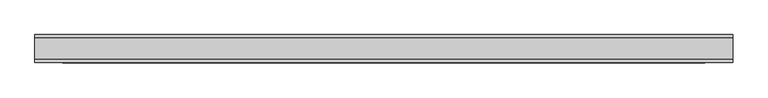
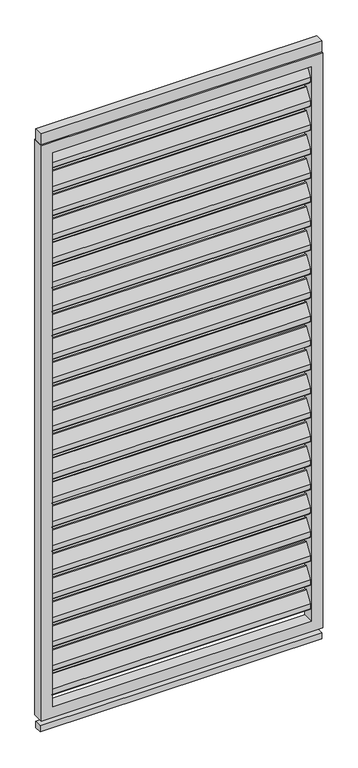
"""IFC4 building model written with IfcOpenShell, lengths in millimetres: proxy geometry, Renson_Camargue_Loggia_Paro_Aluminium : Renson_Camargue_Loggia_Paro_Aluminium."""

from ifc_helpers import new_model, si_unit, point, frame, frame_2d, origin, origin_with_axes, place, context, project, spatial, polyline, circle_curve, trimmed, segment, composite_curve, outline, extrude, source, transform, mapped, element, save


def generic_models_bb8b41d5(model_context):
    return source(origin(), model_context, "Body", "SweptSolid", [
        extrude(outline(composite_curve([segment(trimmed(circle_curve(frame_2d((12.6675921, 2162.6587719)), 3.0), [point((10.1515804, 2164.292689))], [point((15.6675921, 2162.6587719))], False, "CARTESIAN"), True, "CONTINUOUS"), segment(polyline([(15.6675921, 2162.6587719), (15.6675921, 2144.2979873)]), True, "CONTINUOUS"), segment(trimmed(circle_curve(frame_2d((12.6675921, 2144.2979873)), 3.0), [point((15.6675921, 2144.2979873))], [point((15.1836038, 2142.6640702))], False, "CARTESIAN"), True, "CONTINUOUS"), segment(polyline([(15.1836038, 2142.6640702), (-8.8163962, 2105.707311)]), True, "CONTINUOUS"), segment(trimmed(circle_curve(frame_2d((-11.3324079, 2107.3412281)), 3.0), [point((-8.8163962, 2105.707311))], [point((-14.3324079, 2107.3412281))], False, "CARTESIAN"), True, "CONTINUOUS"), segment(polyline([(-14.3324079, 2107.3412281), (-14.3324079, 2126.5906532), (10.1515804, 2164.292689)]), True, "CONTINUOUS")], self_intersect=False)), frame((-460.0, 0.0, 0.0), z_axis=(1.0, 0.0, 0.0), x_axis=(0.0, 1.0, 0.0)), (0.0, 0.0, 1.0), 920.0),
        extrude(outline(composite_curve([segment(trimmed(circle_curve(frame_2d((12.6675921, 2072.6587719)), 3.0), [point((10.1515804, 2074.292689))], [point((15.6675921, 2072.6587719))], False, "CARTESIAN"), True, "CONTINUOUS"), segment(polyline([(15.6675921, 2072.6587719), (15.6675921, 2054.2979873)]), True, "CONTINUOUS"), segment(trimmed(circle_curve(frame_2d((12.6675921, 2054.2979873)), 3.0), [point((15.6675921, 2054.2979873))], [point((15.1836038, 2052.6640702))], False, "CARTESIAN"), True, "CONTINUOUS"), segment(polyline([(15.1836038, 2052.6640702), (-8.8163962, 2015.707311)]), True, "CONTINUOUS"), segment(trimmed(circle_curve(frame_2d((-11.3324079, 2017.3412281)), 3.0), [point((-8.8163962, 2015.707311))], [point((-14.3324079, 2017.3412281))], False, "CARTESIAN"), True, "CONTINUOUS"), segment(polyline([(-14.3324079, 2017.3412281), (-14.3324079, 2036.5906532), (10.1515804, 2074.292689)]), True, "CONTINUOUS")], self_intersect=False)), frame((-460.0, 0.0, 0.0), z_axis=(1.0, 0.0, 0.0), x_axis=(0.0, 1.0, 0.0)), (0.0, 0.0, 1.0), 920.0),
        extrude(outline(composite_curve([segment(trimmed(circle_curve(frame_2d((12.6675921, 1982.6587719)), 3.0), [point((10.1515804, 1984.292689))], [point((15.6675921, 1982.6587719))], False, "CARTESIAN"), True, "CONTINUOUS"), segment(polyline([(15.6675921, 1982.6587719), (15.6675921, 1964.2979873)]), True, "CONTINUOUS"), segment(trimmed(circle_curve(frame_2d((12.6675921, 1964.2979873)), 3.0), [point((15.6675921, 1964.2979873))], [point((15.1836038, 1962.6640702))], False, "CARTESIAN"), True, "CONTINUOUS"), segment(polyline([(15.1836038, 1962.6640702), (-8.8163962, 1925.707311)]), True, "CONTINUOUS"), segment(trimmed(circle_curve(frame_2d((-11.3324079, 1927.3412281)), 3.0), [point((-8.8163962, 1925.707311))], [point((-14.3324079, 1927.3412281))], False, "CARTESIAN"), True, "CONTINUOUS"), segment(polyline([(-14.3324079, 1927.3412281), (-14.3324079, 1946.5906532), (10.1515804, 1984.292689)]), True, "CONTINUOUS")], self_intersect=False)), frame((-460.0, 0.0, 0.0), z_axis=(1.0, 0.0, 0.0), x_axis=(0.0, 1.0, 0.0)), (0.0, 0.0, 1.0), 920.0),
        extrude(outline(composite_curve([segment(trimmed(circle_curve(frame_2d((12.6675921, 1892.6587719)), 3.0), [point((10.1515804, 1894.292689))], [point((15.6675921, 1892.6587719))], False, "CARTESIAN"), True, "CONTINUOUS"), segment(polyline([(15.6675921, 1892.6587719), (15.6675921, 1874.2979873)]), True, "CONTINUOUS"), segment(trimmed(circle_curve(frame_2d((12.6675921, 1874.2979873)), 3.0), [point((15.6675921, 1874.2979873))], [point((15.1836038, 1872.6640702))], False, "CARTESIAN"), True, "CONTINUOUS"), segment(polyline([(15.1836038, 1872.6640702), (-8.8163962, 1835.707311)]), True, "CONTINUOUS"), segment(trimmed(circle_curve(frame_2d((-11.3324079, 1837.3412281)), 3.0), [point((-8.8163962, 1835.707311))], [point((-14.3324079, 1837.3412281))], False, "CARTESIAN"), True, "CONTINUOUS"), segment(polyline([(-14.3324079, 1837.3412281), (-14.3324079, 1856.5906532), (10.1515804, 1894.292689)]), True, "CONTINUOUS")], self_intersect=False)), frame((-460.0, 0.0, 0.0), z_axis=(1.0, 0.0, 0.0), x_axis=(0.0, 1.0, 0.0)), (0.0, 0.0, 1.0), 920.0),
        extrude(outline(composite_curve([segment(trimmed(circle_curve(frame_2d((12.6675921, 1802.6587719)), 3.0), [point((10.1515804, 1804.292689))], [point((15.6675921, 1802.6587719))], False, "CARTESIAN"), True, "CONTINUOUS"), segment(polyline([(15.6675921, 1802.6587719), (15.6675921, 1784.2979873)]), True, "CONTINUOUS"), segment(trimmed(circle_curve(frame_2d((12.6675921, 1784.2979873)), 3.0), [point((15.6675921, 1784.2979873))], [point((15.1836038, 1782.6640702))], False, "CARTESIAN"), True, "CONTINUOUS"), segment(polyline([(15.1836038, 1782.6640702), (-8.8163962, 1745.707311)]), True, "CONTINUOUS"), segment(trimmed(circle_curve(frame_2d((-11.3324079, 1747.3412281)), 3.0), [point((-8.8163962, 1745.707311))], [point((-14.3324079, 1747.3412281))], False, "CARTESIAN"), True, "CONTINUOUS"), segment(polyline([(-14.3324079, 1747.3412281), (-14.3324079, 1766.5906532), (10.1515804, 1804.292689)]), True, "CONTINUOUS")], self_intersect=False)), frame((-460.0, 0.0, 0.0), z_axis=(1.0, 0.0, 0.0), x_axis=(0.0, 1.0, 0.0)), (0.0, 0.0, 1.0), 920.0),
        extrude(outline(composite_curve([segment(trimmed(circle_curve(frame_2d((12.6675921, 1712.6587719)), 3.0), [point((10.1515804, 1714.292689))], [point((15.6675921, 1712.6587719))], False, "CARTESIAN"), True, "CONTINUOUS"), segment(polyline([(15.6675921, 1712.6587719), (15.6675921, 1694.2979873)]), True, "CONTINUOUS"), segment(trimmed(circle_curve(frame_2d((12.6675921, 1694.2979873)), 3.0), [point((15.6675921, 1694.2979873))], [point((15.1836038, 1692.6640702))], False, "CARTESIAN"), True, "CONTINUOUS"), segment(polyline([(15.1836038, 1692.6640702), (-8.8163962, 1655.707311)]), True, "CONTINUOUS"), segment(trimmed(circle_curve(frame_2d((-11.3324079, 1657.3412281)), 3.0), [point((-8.8163962, 1655.707311))], [point((-14.3324079, 1657.3412281))], False, "CARTESIAN"), True, "CONTINUOUS"), segment(polyline([(-14.3324079, 1657.3412281), (-14.3324079, 1676.5906532), (10.1515804, 1714.292689)]), True, "CONTINUOUS")], self_intersect=False)), frame((-460.0, 0.0, 0.0), z_axis=(1.0, 0.0, 0.0), x_axis=(0.0, 1.0, 0.0)), (0.0, 0.0, 1.0), 920.0),
        extrude(outline(composite_curve([segment(trimmed(circle_curve(frame_2d((12.6675921, 1622.6587719)), 3.0), [point((10.1515804, 1624.292689))], [point((15.6675921, 1622.6587719))], False, "CARTESIAN"), True, "CONTINUOUS"), segment(polyline([(15.6675921, 1622.6587719), (15.6675921, 1604.2979873)]), True, "CONTINUOUS"), segment(trimmed(circle_curve(frame_2d((12.6675921, 1604.2979873)), 3.0), [point((15.6675921, 1604.2979873))], [point((15.1836038, 1602.6640702))], False, "CARTESIAN"), True, "CONTINUOUS"), segment(polyline([(15.1836038, 1602.6640702), (-8.8163962, 1565.707311)]), True, "CONTINUOUS"), segment(trimmed(circle_curve(frame_2d((-11.3324079, 1567.3412281)), 3.0), [point((-8.8163962, 1565.707311))], [point((-14.3324079, 1567.3412281))], False, "CARTESIAN"), True, "CONTINUOUS"), segment(polyline([(-14.3324079, 1567.3412281), (-14.3324079, 1586.5906532), (10.1515804, 1624.292689)]), True, "CONTINUOUS")], self_intersect=False)), frame((-460.0, 0.0, 0.0), z_axis=(1.0, 0.0, 0.0), x_axis=(0.0, 1.0, 0.0)), (0.0, 0.0, 1.0), 920.0),
        extrude(outline(composite_curve([segment(trimmed(circle_curve(frame_2d((12.6675921, 1532.6587719)), 3.0), [point((10.1515804, 1534.292689))], [point((15.6675921, 1532.6587719))], False, "CARTESIAN"), True, "CONTINUOUS"), segment(polyline([(15.6675921, 1532.6587719), (15.6675921, 1514.2979873)]), True, "CONTINUOUS"), segment(trimmed(circle_curve(frame_2d((12.6675921, 1514.2979873)), 3.0), [point((15.6675921, 1514.2979873))], [point((15.1836038, 1512.6640702))], False, "CARTESIAN"), True, "CONTINUOUS"), segment(polyline([(15.1836038, 1512.6640702), (-8.8163962, 1475.707311)]), True, "CONTINUOUS"), segment(trimmed(circle_curve(frame_2d((-11.3324079, 1477.3412281)), 3.0), [point((-8.8163962, 1475.707311))], [point((-14.3324079, 1477.3412281))], False, "CARTESIAN"), True, "CONTINUOUS"), segment(polyline([(-14.3324079, 1477.3412281), (-14.3324079, 1496.5906532), (10.1515804, 1534.292689)]), True, "CONTINUOUS")], self_intersect=False)), frame((-460.0, 0.0, 0.0), z_axis=(1.0, 0.0, 0.0), x_axis=(0.0, 1.0, 0.0)), (0.0, 0.0, 1.0), 920.0),
        extrude(outline(composite_curve([segment(trimmed(circle_curve(frame_2d((12.6675921, 1442.6587719)), 3.0), [point((10.1515804, 1444.292689))], [point((15.6675921, 1442.6587719))], False, "CARTESIAN"), True, "CONTINUOUS"), segment(polyline([(15.6675921, 1442.6587719), (15.6675921, 1424.2979873)]), True, "CONTINUOUS"), segment(trimmed(circle_curve(frame_2d((12.6675921, 1424.2979873)), 3.0), [point((15.6675921, 1424.2979873))], [point((15.1836038, 1422.6640702))], False, "CARTESIAN"), True, "CONTINUOUS"), segment(polyline([(15.1836038, 1422.6640702), (-8.8163962, 1385.707311)]), True, "CONTINUOUS"), segment(trimmed(circle_curve(frame_2d((-11.3324079, 1387.3412281)), 3.0), [point((-8.8163962, 1385.707311))], [point((-14.3324079, 1387.3412281))], False, "CARTESIAN"), True, "CONTINUOUS"), segment(polyline([(-14.3324079, 1387.3412281), (-14.3324079, 1406.5906532), (10.1515804, 1444.292689)]), True, "CONTINUOUS")], self_intersect=False)), frame((-460.0, 0.0, 0.0), z_axis=(1.0, 0.0, 0.0), x_axis=(0.0, 1.0, 0.0)), (0.0, 0.0, 1.0), 920.0),
        extrude(outline(composite_curve([segment(trimmed(circle_curve(frame_2d((12.6675921, 1352.6587719)), 3.0), [point((10.1515804, 1354.292689))], [point((15.6675921, 1352.6587719))], False, "CARTESIAN"), True, "CONTINUOUS"), segment(polyline([(15.6675921, 1352.6587719), (15.6675921, 1334.2979873)]), True, "CONTINUOUS"), segment(trimmed(circle_curve(frame_2d((12.6675921, 1334.2979873)), 3.0), [point((15.6675921, 1334.2979873))], [point((15.1836038, 1332.6640702))], False, "CARTESIAN"), True, "CONTINUOUS"), segment(polyline([(15.1836038, 1332.6640702), (-8.8163962, 1295.707311)]), True, "CONTINUOUS"), segment(trimmed(circle_curve(frame_2d((-11.3324079, 1297.3412281)), 3.0), [point((-8.8163962, 1295.707311))], [point((-14.3324079, 1297.3412281))], False, "CARTESIAN"), True, "CONTINUOUS"), segment(polyline([(-14.3324079, 1297.3412281), (-14.3324079, 1316.5906532), (10.1515804, 1354.292689)]), True, "CONTINUOUS")], self_intersect=False)), frame((-460.0, 0.0, 0.0), z_axis=(1.0, 0.0, 0.0), x_axis=(0.0, 1.0, 0.0)), (0.0, 0.0, 1.0), 920.0),
        extrude(outline(composite_curve([segment(trimmed(circle_curve(frame_2d((12.6675921, 1262.6587719)), 3.0), [point((10.1515804, 1264.292689))], [point((15.6675921, 1262.6587719))], False, "CARTESIAN"), True, "CONTINUOUS"), segment(polyline([(15.6675921, 1262.6587719), (15.6675921, 1244.2979873)]), True, "CONTINUOUS"), segment(trimmed(circle_curve(frame_2d((12.6675921, 1244.2979873)), 3.0), [point((15.6675921, 1244.2979873))], [point((15.1836038, 1242.6640702))], False, "CARTESIAN"), True, "CONTINUOUS"), segment(polyline([(15.1836038, 1242.6640702), (-8.8163962, 1205.707311)]), True, "CONTINUOUS"), segment(trimmed(circle_curve(frame_2d((-11.3324079, 1207.3412281)), 3.0), [point((-8.8163962, 1205.707311))], [point((-14.3324079, 1207.3412281))], False, "CARTESIAN"), True, "CONTINUOUS"), segment(polyline([(-14.3324079, 1207.3412281), (-14.3324079, 1226.5906532), (10.1515804, 1264.292689)]), True, "CONTINUOUS")], self_intersect=False)), frame((-460.0, 0.0, 0.0), z_axis=(1.0, 0.0, 0.0), x_axis=(0.0, 1.0, 0.0)), (0.0, 0.0, 1.0), 920.0),
        extrude(outline(composite_curve([segment(trimmed(circle_curve(frame_2d((12.6675921, 1172.6587719)), 3.0), [point((10.1515804, 1174.292689))], [point((15.6675921, 1172.6587719))], False, "CARTESIAN"), True, "CONTINUOUS"), segment(polyline([(15.6675921, 1172.6587719), (15.6675921, 1154.2979873)]), True, "CONTINUOUS"), segment(trimmed(circle_curve(frame_2d((12.6675921, 1154.2979873)), 3.0), [point((15.6675921, 1154.2979873))], [point((15.1836038, 1152.6640702))], False, "CARTESIAN"), True, "CONTINUOUS"), segment(polyline([(15.1836038, 1152.6640702), (-8.8163962, 1115.707311)]), True, "CONTINUOUS"), segment(trimmed(circle_curve(frame_2d((-11.3324079, 1117.3412281)), 3.0), [point((-8.8163962, 1115.707311))], [point((-14.3324079, 1117.3412281))], False, "CARTESIAN"), True, "CONTINUOUS"), segment(polyline([(-14.3324079, 1117.3412281), (-14.3324079, 1136.5906532), (10.1515804, 1174.292689)]), True, "CONTINUOUS")], self_intersect=False)), frame((-460.0, 0.0, 0.0), z_axis=(1.0, 0.0, 0.0), x_axis=(0.0, 1.0, 0.0)), (0.0, 0.0, 1.0), 920.0),
        extrude(outline(composite_curve([segment(trimmed(circle_curve(frame_2d((12.6675921, 1082.6587719)), 3.0), [point((10.1515804, 1084.292689))], [point((15.6675921, 1082.6587719))], False, "CARTESIAN"), True, "CONTINUOUS"), segment(polyline([(15.6675921, 1082.6587719), (15.6675921, 1064.2979873)]), True, "CONTINUOUS"), segment(trimmed(circle_curve(frame_2d((12.6675921, 1064.2979873)), 3.0), [point((15.6675921, 1064.2979873))], [point((15.1836038, 1062.6640702))], False, "CARTESIAN"), True, "CONTINUOUS"), segment(polyline([(15.1836038, 1062.6640702), (-8.8163962, 1025.707311)]), True, "CONTINUOUS"), segment(trimmed(circle_curve(frame_2d((-11.3324079, 1027.3412281)), 3.0), [point((-8.8163962, 1025.707311))], [point((-14.3324079, 1027.3412281))], False, "CARTESIAN"), True, "CONTINUOUS"), segment(polyline([(-14.3324079, 1027.3412281), (-14.3324079, 1046.5906532), (10.1515804, 1084.292689)]), True, "CONTINUOUS")], self_intersect=False)), frame((-460.0, 0.0, 0.0), z_axis=(1.0, 0.0, 0.0), x_axis=(0.0, 1.0, 0.0)), (0.0, 0.0, 1.0), 920.0),
        extrude(outline(composite_curve([segment(trimmed(circle_curve(frame_2d((12.6675921, 992.6587719)), 3.0), [point((10.1515804, 994.292689))], [point((15.6675921, 992.6587719))], False, "CARTESIAN"), True, "CONTINUOUS"), segment(polyline([(15.6675921, 992.6587719), (15.6675921, 974.2979873)]), True, "CONTINUOUS"), segment(trimmed(circle_curve(frame_2d((12.6675921, 974.2979873)), 3.0), [point((15.6675921, 974.2979873))], [point((15.1836038, 972.6640702))], False, "CARTESIAN"), True, "CONTINUOUS"), segment(polyline([(15.1836038, 972.6640702), (-8.8163962, 935.707311)]), True, "CONTINUOUS"), segment(trimmed(circle_curve(frame_2d((-11.3324079, 937.3412281)), 3.0), [point((-8.8163962, 935.707311))], [point((-14.3324079, 937.3412281))], False, "CARTESIAN"), True, "CONTINUOUS"), segment(polyline([(-14.3324079, 937.3412281), (-14.3324079, 956.5906532), (10.1515804, 994.292689)]), True, "CONTINUOUS")], self_intersect=False)), frame((-460.0, 0.0, 0.0), z_axis=(1.0, 0.0, 0.0), x_axis=(0.0, 1.0, 0.0)), (0.0, 0.0, 1.0), 920.0),
        extrude(outline(composite_curve([segment(trimmed(circle_curve(frame_2d((12.6675921, 902.6587719)), 3.0), [point((10.1515804, 904.292689))], [point((15.6675921, 902.6587719))], False, "CARTESIAN"), True, "CONTINUOUS"), segment(polyline([(15.6675921, 902.6587719), (15.6675921, 884.2979873)]), True, "CONTINUOUS"), segment(trimmed(circle_curve(frame_2d((12.6675921, 884.2979873)), 3.0), [point((15.6675921, 884.2979873))], [point((15.1836038, 882.6640702))], False, "CARTESIAN"), True, "CONTINUOUS"), segment(polyline([(15.1836038, 882.6640702), (-8.8163962, 845.707311)]), True, "CONTINUOUS"), segment(trimmed(circle_curve(frame_2d((-11.3324079, 847.3412281)), 3.0), [point((-8.8163962, 845.707311))], [point((-14.3324079, 847.3412281))], False, "CARTESIAN"), True, "CONTINUOUS"), segment(polyline([(-14.3324079, 847.3412281), (-14.3324079, 866.5906532), (10.1515804, 904.292689)]), True, "CONTINUOUS")], self_intersect=False)), frame((-460.0, 0.0, 0.0), z_axis=(1.0, 0.0, 0.0), x_axis=(0.0, 1.0, 0.0)), (0.0, 0.0, 1.0), 920.0),
        extrude(outline(composite_curve([segment(trimmed(circle_curve(frame_2d((12.6675921, 812.6587719)), 3.0), [point((10.1515804, 814.292689))], [point((15.6675921, 812.6587719))], False, "CARTESIAN"), True, "CONTINUOUS"), segment(polyline([(15.6675921, 812.6587719), (15.6675921, 794.2979873)]), True, "CONTINUOUS"), segment(trimmed(circle_curve(frame_2d((12.6675921, 794.2979873)), 3.0), [point((15.6675921, 794.2979873))], [point((15.1836038, 792.6640702))], False, "CARTESIAN"), True, "CONTINUOUS"), segment(polyline([(15.1836038, 792.6640702), (-8.8163962, 755.707311)]), True, "CONTINUOUS"), segment(trimmed(circle_curve(frame_2d((-11.3324079, 757.3412281)), 3.0), [point((-8.8163962, 755.707311))], [point((-14.3324079, 757.3412281))], False, "CARTESIAN"), True, "CONTINUOUS"), segment(polyline([(-14.3324079, 757.3412281), (-14.3324079, 776.5906532), (10.1515804, 814.292689)]), True, "CONTINUOUS")], self_intersect=False)), frame((-460.0, 0.0, 0.0), z_axis=(1.0, 0.0, 0.0), x_axis=(0.0, 1.0, 0.0)), (0.0, 0.0, 1.0), 920.0),
        extrude(outline(composite_curve([segment(trimmed(circle_curve(frame_2d((12.6675921, 722.6587719)), 3.0), [point((10.1515804, 724.292689))], [point((15.6675921, 722.6587719))], False, "CARTESIAN"), True, "CONTINUOUS"), segment(polyline([(15.6675921, 722.6587719), (15.6675921, 704.2979873)]), True, "CONTINUOUS"), segment(trimmed(circle_curve(frame_2d((12.6675921, 704.2979873)), 3.0), [point((15.6675921, 704.2979873))], [point((15.1836038, 702.6640702))], False, "CARTESIAN"), True, "CONTINUOUS"), segment(polyline([(15.1836038, 702.6640702), (-8.8163962, 665.707311)]), True, "CONTINUOUS"), segment(trimmed(circle_curve(frame_2d((-11.3324079, 667.3412281)), 3.0), [point((-8.8163962, 665.707311))], [point((-14.3324079, 667.3412281))], False, "CARTESIAN"), True, "CONTINUOUS"), segment(polyline([(-14.3324079, 667.3412281), (-14.3324079, 686.5906532), (10.1515804, 724.292689)]), True, "CONTINUOUS")], self_intersect=False)), frame((-460.0, 0.0, 0.0), z_axis=(1.0, 0.0, 0.0), x_axis=(0.0, 1.0, 0.0)), (0.0, 0.0, 1.0), 920.0),
        extrude(outline(composite_curve([segment(trimmed(circle_curve(frame_2d((12.6675921, 632.6587719)), 3.0), [point((10.1515804, 634.292689))], [point((15.6675921, 632.6587719))], False, "CARTESIAN"), True, "CONTINUOUS"), segment(polyline([(15.6675921, 632.6587719), (15.6675921, 614.2979873)]), True, "CONTINUOUS"), segment(trimmed(circle_curve(frame_2d((12.6675921, 614.2979873)), 3.0), [point((15.6675921, 614.2979873))], [point((15.1836038, 612.6640702))], False, "CARTESIAN"), True, "CONTINUOUS"), segment(polyline([(15.1836038, 612.6640702), (-8.8163962, 575.707311)]), True, "CONTINUOUS"), segment(trimmed(circle_curve(frame_2d((-11.3324079, 577.3412281)), 3.0), [point((-8.8163962, 575.707311))], [point((-14.3324079, 577.3412281))], False, "CARTESIAN"), True, "CONTINUOUS"), segment(polyline([(-14.3324079, 577.3412281), (-14.3324079, 596.5906532), (10.1515804, 634.292689)]), True, "CONTINUOUS")], self_intersect=False)), frame((-460.0, 0.0, 0.0), z_axis=(1.0, 0.0, 0.0), x_axis=(0.0, 1.0, 0.0)), (0.0, 0.0, 1.0), 920.0),
        extrude(outline(composite_curve([segment(trimmed(circle_curve(frame_2d((12.6675921, 542.6587719)), 3.0), [point((10.1515804, 544.292689))], [point((15.6675921, 542.6587719))], False, "CARTESIAN"), True, "CONTINUOUS"), segment(polyline([(15.6675921, 542.6587719), (15.6675921, 524.2979873)]), True, "CONTINUOUS"), segment(trimmed(circle_curve(frame_2d((12.6675921, 524.2979873)), 3.0), [point((15.6675921, 524.2979873))], [point((15.1836038, 522.6640702))], False, "CARTESIAN"), True, "CONTINUOUS"), segment(polyline([(15.1836038, 522.6640702), (-8.8163962, 485.707311)]), True, "CONTINUOUS"), segment(trimmed(circle_curve(frame_2d((-11.3324079, 487.3412281)), 3.0), [point((-8.8163962, 485.707311))], [point((-14.3324079, 487.3412281))], False, "CARTESIAN"), True, "CONTINUOUS"), segment(polyline([(-14.3324079, 487.3412281), (-14.3324079, 506.5906532), (10.1515804, 544.292689)]), True, "CONTINUOUS")], self_intersect=False)), frame((-460.0, 0.0, 0.0), z_axis=(1.0, 0.0, 0.0), x_axis=(0.0, 1.0, 0.0)), (0.0, 0.0, 1.0), 920.0),
        extrude(outline(composite_curve([segment(trimmed(circle_curve(frame_2d((12.6675921, 452.6587719)), 3.0), [point((10.1515804, 454.292689))], [point((15.6675921, 452.6587719))], False, "CARTESIAN"), True, "CONTINUOUS"), segment(polyline([(15.6675921, 452.6587719), (15.6675921, 434.2979873)]), True, "CONTINUOUS"), segment(trimmed(circle_curve(frame_2d((12.6675921, 434.2979873)), 3.0), [point((15.6675921, 434.2979873))], [point((15.1836038, 432.6640702))], False, "CARTESIAN"), True, "CONTINUOUS"), segment(polyline([(15.1836038, 432.6640702), (-8.8163962, 395.707311)]), True, "CONTINUOUS"), segment(trimmed(circle_curve(frame_2d((-11.3324079, 397.3412281)), 3.0), [point((-8.8163962, 395.707311))], [point((-14.3324079, 397.3412281))], False, "CARTESIAN"), True, "CONTINUOUS"), segment(polyline([(-14.3324079, 397.3412281), (-14.3324079, 416.5906532), (10.1515804, 454.292689)]), True, "CONTINUOUS")], self_intersect=False)), frame((-460.0, 0.0, 0.0), z_axis=(1.0, 0.0, 0.0), x_axis=(0.0, 1.0, 0.0)), (0.0, 0.0, 1.0), 920.0),
        extrude(outline(composite_curve([segment(trimmed(circle_curve(frame_2d((12.6675921, 362.6587719)), 3.0), [point((10.1515804, 364.292689))], [point((15.6675921, 362.6587719))], False, "CARTESIAN"), True, "CONTINUOUS"), segment(polyline([(15.6675921, 362.6587719), (15.6675921, 344.2979873)]), True, "CONTINUOUS"), segment(trimmed(circle_curve(frame_2d((12.6675921, 344.2979873)), 3.0), [point((15.6675921, 344.2979873))], [point((15.1836038, 342.6640702))], False, "CARTESIAN"), True, "CONTINUOUS"), segment(polyline([(15.1836038, 342.6640702), (-8.8163962, 305.707311)]), True, "CONTINUOUS"), segment(trimmed(circle_curve(frame_2d((-11.3324079, 307.3412281)), 3.0), [point((-8.8163962, 305.707311))], [point((-14.3324079, 307.3412281))], False, "CARTESIAN"), True, "CONTINUOUS"), segment(polyline([(-14.3324079, 307.3412281), (-14.3324079, 326.5906532), (10.1515804, 364.292689)]), True, "CONTINUOUS")], self_intersect=False)), frame((-460.0, 0.0, 0.0), z_axis=(1.0, 0.0, 0.0), x_axis=(0.0, 1.0, 0.0)), (0.0, 0.0, 1.0), 920.0),
        extrude(outline(composite_curve([segment(trimmed(circle_curve(frame_2d((12.6675921, 272.6587719)), 3.0), [point((10.1515804, 274.292689))], [point((15.6675921, 272.6587719))], False, "CARTESIAN"), True, "CONTINUOUS"), segment(polyline([(15.6675921, 272.6587719), (15.6675921, 254.2979873)]), True, "CONTINUOUS"), segment(trimmed(circle_curve(frame_2d((12.6675921, 254.2979873)), 3.0), [point((15.6675921, 254.2979873))], [point((15.1836038, 252.6640702))], False, "CARTESIAN"), True, "CONTINUOUS"), segment(polyline([(15.1836038, 252.6640702), (-8.8163962, 215.707311)]), True, "CONTINUOUS"), segment(trimmed(circle_curve(frame_2d((-11.3324079, 217.3412281)), 3.0), [point((-8.8163962, 215.707311))], [point((-14.3324079, 217.3412281))], False, "CARTESIAN"), True, "CONTINUOUS"), segment(polyline([(-14.3324079, 217.3412281), (-14.3324079, 236.5906532), (10.1515804, 274.292689)]), True, "CONTINUOUS")], self_intersect=False)), frame((-460.0, 0.0, 0.0), z_axis=(1.0, 0.0, 0.0), x_axis=(0.0, 1.0, 0.0)), (0.0, 0.0, 1.0), 920.0),
        extrude(outline(composite_curve([segment(trimmed(circle_curve(frame_2d((12.6675921, 182.6587719)), 3.0), [point((10.1515804, 184.292689))], [point((15.6675921, 182.6587719))], False, "CARTESIAN"), True, "CONTINUOUS"), segment(polyline([(15.6675921, 182.6587719), (15.6675921, 164.2979873)]), True, "CONTINUOUS"), segment(trimmed(circle_curve(frame_2d((12.6675921, 164.2979873)), 3.0), [point((15.6675921, 164.2979873))], [point((15.1836038, 162.6640702))], False, "CARTESIAN"), True, "CONTINUOUS"), segment(polyline([(15.1836038, 162.6640702), (-8.8163962, 125.707311)]), True, "CONTINUOUS"), segment(trimmed(circle_curve(frame_2d((-11.3324079, 127.3412281)), 3.0), [point((-8.8163962, 125.707311))], [point((-14.3324079, 127.3412281))], False, "CARTESIAN"), True, "CONTINUOUS"), segment(polyline([(-14.3324079, 127.3412281), (-14.3324079, 146.5906532), (10.1515804, 184.292689)]), True, "CONTINUOUS")], self_intersect=False)), frame((-460.0, 0.0, 0.0), z_axis=(1.0, 0.0, 0.0), x_axis=(0.0, 1.0, 0.0)), (0.0, 0.0, 1.0), 920.0),
        extrude(outline(polyline([(500.0, 15.0), (500.0, -15.0), (-500.0, -15.0), (-500.0, 15.0), (500.0, 15.0)])), frame((0.0, 0.0, 2207.7138321), z_axis=(0.0, 0.0, 1.0), x_axis=(1.0, 0.0, 0.0)), (0.0, 0.0, 1.0), 42.2861679),
        extrude(outline(polyline([(500.0, 15.0), (500.0, -15.0), (-500.0, -15.0), (-500.0, 15.0), (500.0, 15.0)])), frame((0.0, 0.0, 2207.7138321), z_axis=(0.0, 0.0, 1.0), x_axis=(1.0, 0.0, 0.0)), (0.0, 0.0, 1.0), 42.2861679),
        extrude(outline(polyline([(500.0, -13.0), (-500.0, -13.0), (-500.0, 14.0), (500.0, 14.0), (500.0, -13.0)])), origin_with_axes(), (0.0, 0.0, 1.0), 23.0),
        extrude(outline(polyline([(500.0, -13.0), (-500.0, -13.0), (-500.0, 14.0), (500.0, 14.0), (500.0, -13.0)])), origin_with_axes(), (0.0, 0.0, 1.0), 23.0),
        extrude(outline(polyline([(2207.7138321, -500.0), (45.0, -500.0), (45.0, 500.0), (2207.7138321, 500.0), (2207.7138321, -500.0)]), holes=[polyline([(2167.7138321, 460.0), (85.0, 460.0), (85.0, -460.0), (2167.7138321, -460.0), (2167.7138321, 460.0)])]), frame((0.0, -20.0, 0.0), z_axis=(0.0, 1.0, 0.0), x_axis=(0.0, 0.0, 1.0)), (0.0, 0.0, 1.0), 40.0),
    ])


if __name__ == "__main__":
    model = new_model("IFC4")
    model_context = context("Model", 3, world=origin())
    ifc_project = project(units=[si_unit("LENGTHUNIT", "METRE", prefix="MILLI")], contexts=[model_context])
    site = spatial("IfcSite", under=ifc_project)
    building = spatial("IfcBuilding", under=site)
    placement = place(None, origin())
    generic_models_shape = generic_models_bb8b41d5(model_context)
    element("IfcBuildingElementProxy", 1, Name="Renson_Camargue_Loggia_Paro_Aluminium : Renson_Camargue_Loggia_Paro_Aluminium", ObjectType="Renson_Camargue_Loggia_Paro_Aluminium : Renson_Camargue_Loggia_Paro_Aluminium", at=placement, inside=building, context=model_context, shape_type="MappedRepresentation", body=[
        mapped(generic_models_shape, transform((0.0, 0.0, 0.0), x_axis=(1.0, 0.0, 0.0), y_axis=(0.0, 1.0, 0.0), z_axis=(0.0, 0.0, 1.0))),
    ])
    save(model, "model.ifc")
